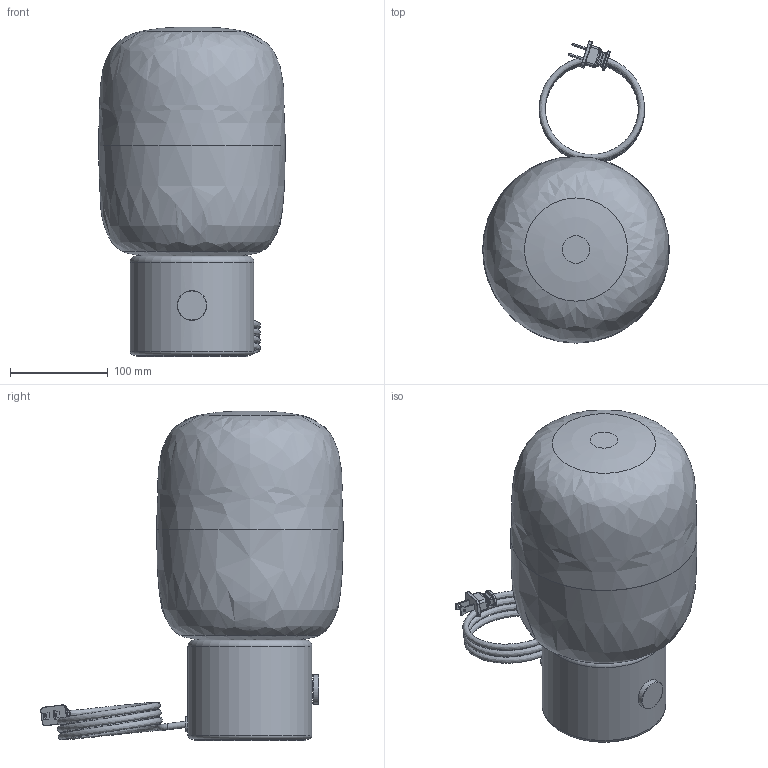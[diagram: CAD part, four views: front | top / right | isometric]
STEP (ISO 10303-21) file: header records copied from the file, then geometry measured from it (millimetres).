
FILE_DESCRIPTION(/* description */ (''),/* implementation_level */ '2;1');
FILE_NAME(/* name */ 'Arca Tall - Ionic Table Lamp.step',/* time_stamp */ '2024-07-26T15:58:16-04:00',/* author */ (''),/* organization */ (''),/* preprocessor_version */ 'ST-DEVELOPER v20',/* originating_system */ 'Autodesk Translation Framework v13.14.0.145',/* authorisation */ '');
FILE_SCHEMA (('AUTOMOTIVE_DESIGN { 1 0 10303 214 3 1 1 }'));
Length unit declared in the file: inch
Products named in the file (21): Marble Base - Ionic Table Lamp - 120V; Coiled - SVT (Blk Fabric); Brass Dial - Dimmer Knob; µ÷¹âÆ÷; 90701000093 ¹â°åE27µÆ×ù_¦Õ375
9mm_ºÚÉ«_CEÈÏÖ¤; 90701000096 M10ÑÀ¹Ü_M10L25mmÄÚ¿×¦
Õ7_²ÄÖÊ£ºÌú_¶Æ°×Ð
¿_RoHS; 90701000098 Ñ¹Ïß°å_PP_314612_º
ÚÉ«; 90701000097 M10Áù½Ç±¡ÂÝÄ¸_M10
_²ÄÖÊ£ºÌú_¶Æ°×Ð¿
_RoHS; M10ÄÚ¾â³ÝËø½ôµæÈ¦
_²ÄÖÊ£ºÌú_¶Æ°×Ð¿
_RoHS; Marble Base; Plastic Insert; Silicone Gasket; Arca Tall; Arca Tall - Balon v3.3; T9 - Bulb; T9 - LED Bulb; T9; E26 Base; Rubber Grommet; 2-Pole Plug End; Neoprene Pad
Assembly tree (20 placements, depth 4):
  Marble Base - Ionic Table Lamp - 120V
    Coiled - SVT (Blk Fabric)
    Brass Dial - Dimmer Knob
    µ÷¹âÆ÷
    90701000093 ¹â°åE27µÆ×ù_¦Õ375
9mm_ºÚÉ«_CEÈÏÖ¤
    90701000096 M10ÑÀ¹Ü_M10L25mmÄÚ¿×¦
Õ7_²ÄÖÊ£ºÌú_¶Æ°×Ð
¿_RoHS
    90701000098 Ñ¹Ïß°å_PP_314612_º
ÚÉ«
    90701000097 M10Áù½Ç±¡ÂÝÄ¸_M10
_²ÄÖÊ£ºÌú_¶Æ°×Ð¿
_RoHS
    M10ÄÚ¾â³ÝËø½ôµæÈ¦
_²ÄÖÊ£ºÌú_¶Æ°×Ð¿
_RoHS
    Marble Base
    Plastic Insert
    Silicone Gasket
    Arca Tall
      Arca Tall - Balon v3.3
    T9 - Bulb
      T9 - LED Bulb
        T9
        E26 Base
    Rubber Grommet
    2-Pole Plug End
    Neoprene Pad
Bounding box: 191.36 x 310.03 x 337.63 mm (x, y, z)
Volume: 1384716.7 mm3; surface area: 622649.5 mm2
Topology: 17 solids, 18 shells, 2035 faces, 5392 edges, 3540 vertices
Faces by surface type: plane 1000, bspline 822, cylinder 133, cone 42, torus 34, sphere 4
Full cylindrical faces by diameter (mm): 3.175 x2, 4.092 x1, 5.08 x1, 6.35 x2, 6.7 x1, 7 x1, 7.62 x2, 8.128 x1, 8.3 x1, 8.376 x14, 10 x16, 10.16 x1, 10.5 x1, 10.922 x1, 11 x1, 11.684 x1, 14 x1, 15.24 x2, 16 x1, 16.8 x1, 21 x1, 25.94 x1, 27 x1, 27.94 x1, 30.48 x1, 35.5 x1, 37.5 x1, 39.37 x1, 41.402 x1, 80.518 x1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
Entity records: 80780 total; most frequent: CARTESIAN_POINT 35069, ORIENTED_EDGE 10774, DIRECTION 6596, EDGE_CURVE 5388, VERTEX_POINT 3540, LINE 3302, VECTOR 3302, EDGE_LOOP 2216
